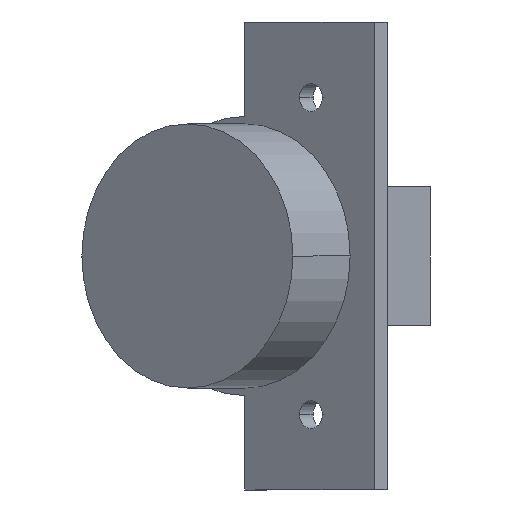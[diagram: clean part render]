
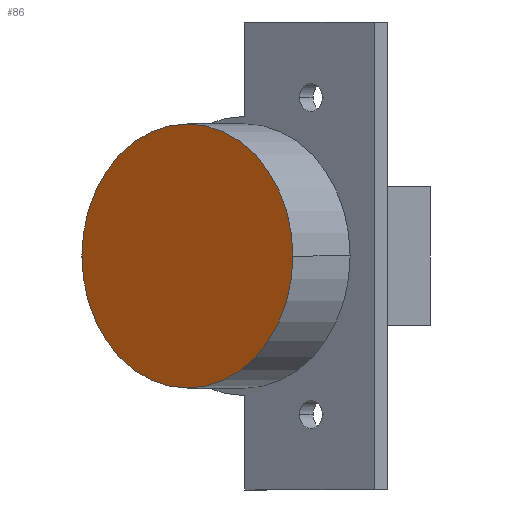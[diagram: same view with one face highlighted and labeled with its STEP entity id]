
A CAD part, front view. The second image highlights one B-rep face of the part: STEP entity #86.
In plain terms, the highlighted planar face has unit normal (-0.602, -0.799, 0).
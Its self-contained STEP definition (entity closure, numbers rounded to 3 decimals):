
#52 = VERTEX_POINT ( 'NONE', #773 ) ;
#86 = ADVANCED_FACE ( 'NONE', ( #136 ), #861, .T. ) ;
#136 = FACE_OUTER_BOUND ( 'NONE', #661, .T. ) ;
#255 = CIRCLE ( 'NONE', #1476, 17.5 ) ;
#272 = CIRCLE ( 'NONE', #1478, 17.5 ) ;
#409 = VERTEX_POINT ( 'NONE', #960 ) ;
#593 = ORIENTED_EDGE ( 'NONE', *, *, #1343, .T. ) ;
#594 = ORIENTED_EDGE ( 'NONE', *, *, #1353, .T. ) ;
#661 = EDGE_LOOP ( 'NONE', ( #593, #594 ) ) ;
#773 = CARTESIAN_POINT ( 'NONE',  ( -20.309, 0.469, 0. ) ) ;
#861 = PLANE ( 'NONE',  #1447 ) ;
#864 = CARTESIAN_POINT ( 'NONE',  ( -6.333, -10.063, 0. ) ) ;
#876 = DIRECTION ( 'NONE',  ( -0.602, -0.799, 0. ) ) ;
#877 = DIRECTION ( 'NONE',  ( 0.799, -0.602, 0. ) ) ;
#960 = CARTESIAN_POINT ( 'NONE',  ( 7.643, -20.595, 0. ) ) ;
#1090 = CARTESIAN_POINT ( 'NONE',  ( -6.333, -10.063, 0. ) ) ;
#1095 = DIRECTION ( 'NONE',  ( -0.602, -0.799, 0. ) ) ;
#1096 = DIRECTION ( 'NONE',  ( 0.799, -0.602, 0. ) ) ;
#1116 = CARTESIAN_POINT ( 'NONE',  ( -6.333, -10.063, 0. ) ) ;
#1118 = DIRECTION ( 'NONE',  ( -0.602, -0.799, 0. ) ) ;
#1119 = DIRECTION ( 'NONE',  ( 0.799, -0.602, 0. ) ) ;
#1343 = EDGE_CURVE ( 'NONE', #52, #409, #255, .T. ) ;
#1353 = EDGE_CURVE ( 'NONE', #409, #52, #272, .T. ) ;
#1447 = AXIS2_PLACEMENT_3D ( 'NONE', #864, #876, #877 ) ;
#1476 = AXIS2_PLACEMENT_3D ( 'NONE', #1090, #1095, #1096 ) ;
#1478 = AXIS2_PLACEMENT_3D ( 'NONE', #1116, #1118, #1119 ) ;
